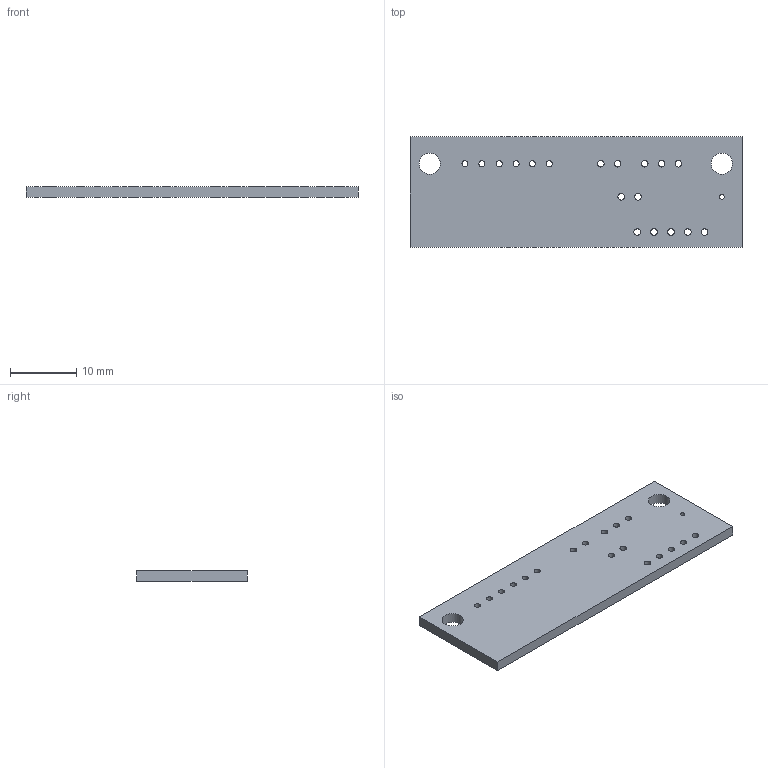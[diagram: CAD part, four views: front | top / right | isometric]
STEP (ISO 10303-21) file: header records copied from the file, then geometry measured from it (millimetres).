
FILE_DESCRIPTION(('KiCad electronic assembly'),'2;1');
FILE_NAME('ServoTester2.step','2023-03-09T20:24:02',('Pcbnew'),('Kicad') ,'Open CASCADE STEP processor 7.5','KiCad to STEP converter','Unknown' );
FILE_SCHEMA(('AUTOMOTIVE_DESIGN { 1 0 10303 214 1 1 1 1 }'));
Length unit declared in the file: millimetre
Products named in the file (2): ServoTester2 1; ServoTester2 PCB
Assembly tree (1 placements, depth 2):
  ServoTester2 1
    ServoTester2 PCB
Bounding box: 50 x 16.67 x 1.6 mm (x, y, z)
Volume: 1285.7 mm3; surface area: 1943.7 mm2
Topology: 1 solids, 1 shells, 27 faces, 75 edges, 50 vertices
Faces by surface type: cylinder 21, plane 6
Full cylindrical faces by diameter (mm): 0.7 x1, 0.9 x6, 1 x12, 3.2 x2
Entity records: 1997 total; most frequent: DIRECTION 325, CARTESIAN_POINT 304, ORIENTED_EDGE 150, PCURVE 150, DEFINITIONAL_REPRESENTATION 150, LINE 141, VECTOR 141, CIRCLE 84
